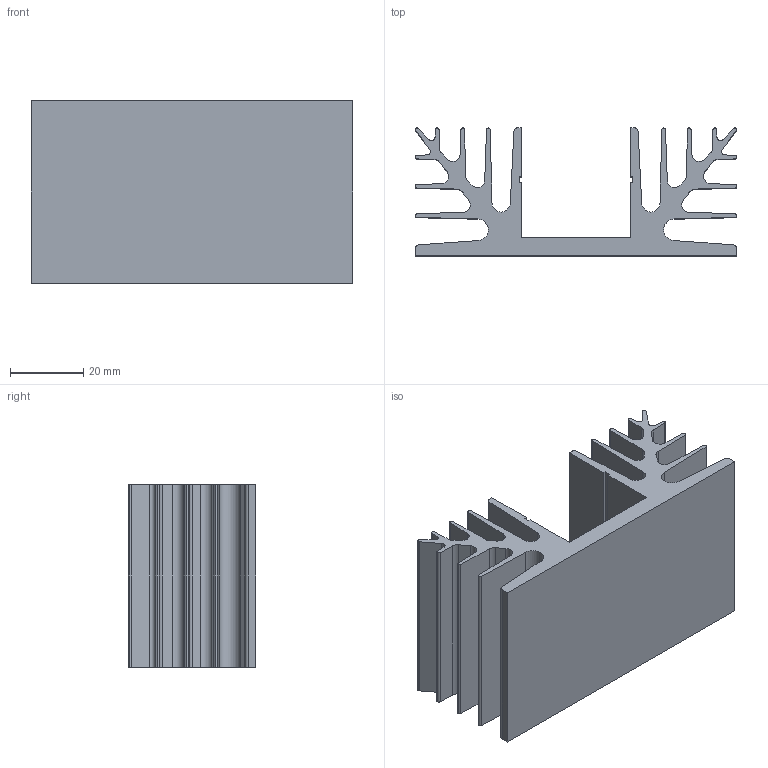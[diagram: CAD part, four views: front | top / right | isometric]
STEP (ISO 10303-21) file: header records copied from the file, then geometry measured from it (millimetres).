
FILE_DESCRIPTION (( 'STEP AP203' ), '1' );
FILE_NAME ('PR 130-50.step', '2002-10-20T23:22:24', ( 'Wolfgang Müller' ), ( 'DPS' ), 'SwSTEP 2.0', 'SolidWorks 2002264', '' );
FILE_SCHEMA (( 'CONFIG_CONTROL_DESIGN' ));
Length unit declared in the file: millimetre
Products named in the file (1): PR 130-50
Bounding box: 88 x 35 x 50 mm (x, y, z)
Volume: 51982.9 mm3; surface area: 34525.3 mm2
Topology: 1 solids, 1 shells, 108 faces, 318 edges, 212 vertices
Faces by surface type: plane 58, cylinder 50
Entity records: 3699 total; most frequent: CARTESIAN_POINT 639, ORIENTED_EDGE 636, DIRECTION 636, EDGE_CURVE 318, LINE 218, VECTOR 218, VERTEX_POINT 212, AXIS2_PLACEMENT_3D 209
